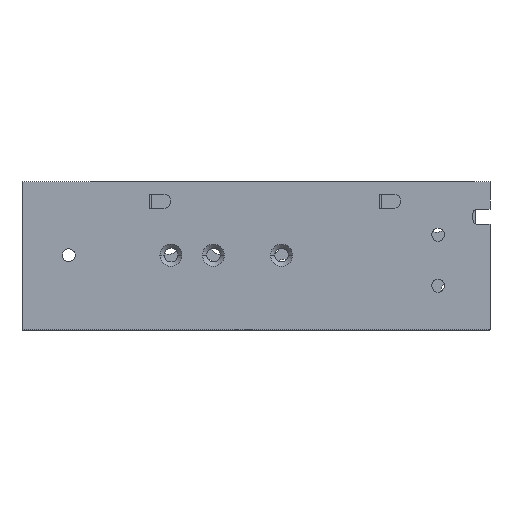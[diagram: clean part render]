
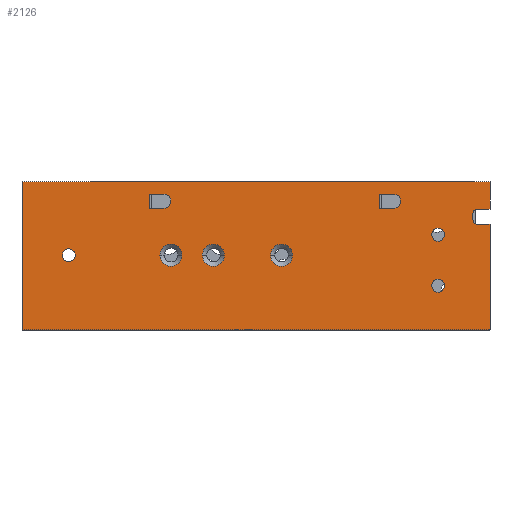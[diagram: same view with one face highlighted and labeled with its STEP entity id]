
A CAD part, front view. The second image highlights one B-rep face of the part: STEP entity #2126.
In plain terms, the highlighted planar face has unit normal (0, -1, 0).
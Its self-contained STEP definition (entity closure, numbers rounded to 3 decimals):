
#423=CARTESIAN_POINT('',(-44.,-38.35,17.7));
#424=DIRECTION('',(0.,-1.,0.));
#425=DIRECTION('',(0.,0.,1.));
#426=AXIS2_PLACEMENT_3D('',#423,#424,#425);
#428=CARTESIAN_POINT('',(-44.,-38.35,17.7));
#429=DIRECTION('',(0.,-1.,0.));
#430=DIRECTION('',(0.,0.,-1.));
#431=AXIS2_PLACEMENT_3D('',#428,#429,#430);
#433=CARTESIAN_POINT('',(42.8,-38.35,22.5));
#434=DIRECTION('',(0.,-1.,0.));
#435=DIRECTION('',(0.,0.,1.));
#436=AXIS2_PLACEMENT_3D('',#433,#434,#435);
#438=CARTESIAN_POINT('',(42.8,-38.35,22.5));
#439=DIRECTION('',(0.,-1.,0.));
#440=DIRECTION('',(0.,0.,-1.));
#441=AXIS2_PLACEMENT_3D('',#438,#439,#440);
#443=CARTESIAN_POINT('',(42.8,-38.35,10.5));
#444=DIRECTION('',(0.,-1.,0.));
#445=DIRECTION('',(0.,0.,1.));
#446=AXIS2_PLACEMENT_3D('',#443,#444,#445);
#448=CARTESIAN_POINT('',(42.8,-38.35,10.5));
#449=DIRECTION('',(0.,-1.,0.));
#450=DIRECTION('',(0.,0.,-1.));
#451=AXIS2_PLACEMENT_3D('',#448,#449,#450);
#453=CARTESIAN_POINT('',(-20.,-38.35,17.7));
#454=DIRECTION('',(0.,1.,0.));
#455=DIRECTION('',(-1.,0.,0.));
#456=AXIS2_PLACEMENT_3D('',#453,#454,#455);
#458=CARTESIAN_POINT('',(-20.,-38.35,17.7));
#459=DIRECTION('',(0.,1.,0.));
#460=DIRECTION('',(1.,0.,0.));
#461=AXIS2_PLACEMENT_3D('',#458,#459,#460);
#463=CARTESIAN_POINT('',(-10.,-38.35,17.7));
#464=DIRECTION('',(0.,1.,0.));
#465=DIRECTION('',(-1.,0.,0.));
#466=AXIS2_PLACEMENT_3D('',#463,#464,#465);
#468=CARTESIAN_POINT('',(-10.,-38.35,17.7));
#469=DIRECTION('',(0.,1.,0.));
#470=DIRECTION('',(1.,0.,0.));
#471=AXIS2_PLACEMENT_3D('',#468,#469,#470);
#473=CARTESIAN_POINT('',(6.,-38.35,17.7));
#474=DIRECTION('',(0.,1.,0.));
#475=DIRECTION('',(-1.,0.,0.));
#476=AXIS2_PLACEMENT_3D('',#473,#474,#475);
#478=CARTESIAN_POINT('',(6.,-38.35,17.7));
#479=DIRECTION('',(0.,1.,0.));
#480=DIRECTION('',(1.,0.,0.));
#481=AXIS2_PLACEMENT_3D('',#478,#479,#480);
#483=DIRECTION('',(1.,0.,0.));
#484=VECTOR('',#483,3.35);
#485=CARTESIAN_POINT('',(29.,-38.35,28.7));
#486=LINE('',#485,#484);
#487=CARTESIAN_POINT('',(32.35,-38.35,30.35));
#488=DIRECTION('',(0.,-1.,0.));
#489=DIRECTION('',(0.,0.,-1.));
#490=AXIS2_PLACEMENT_3D('',#487,#488,#489);
#492=DIRECTION('',(-1.,0.,0.));
#493=VECTOR('',#492,3.35);
#494=CARTESIAN_POINT('',(32.35,-38.35,32.));
#495=LINE('',#494,#493);
#496=DIRECTION('',(0.,0.,-1.));
#497=VECTOR('',#496,3.3);
#498=CARTESIAN_POINT('',(29.,-38.35,32.));
#499=LINE('',#498,#497);
#500=DIRECTION('',(1.,0.,0.));
#501=VECTOR('',#500,3.35);
#502=CARTESIAN_POINT('',(-25.,-38.35,28.7));
#503=LINE('',#502,#501);
#504=CARTESIAN_POINT('',(-21.65,-38.35,30.35));
#505=DIRECTION('',(0.,-1.,0.));
#506=DIRECTION('',(0.,0.,-1.));
#507=AXIS2_PLACEMENT_3D('',#504,#505,#506);
#509=DIRECTION('',(-1.,0.,0.));
#510=VECTOR('',#509,3.35);
#511=CARTESIAN_POINT('',(-21.65,-38.35,32.));
#512=LINE('',#511,#510);
#513=DIRECTION('',(0.,0.,-1.));
#514=VECTOR('',#513,3.3);
#515=CARTESIAN_POINT('',(-25.,-38.35,32.));
#516=LINE('',#515,#514);
#517=DIRECTION('',(-1.,0.,0.));
#518=VECTOR('',#517,110.);
#519=CARTESIAN_POINT('',(55.,-38.35,0.2));
#520=LINE('',#519,#518);
#521=DIRECTION('',(0.,0.,1.));
#522=VECTOR('',#521,34.8);
#523=CARTESIAN_POINT('',(-55.,-38.35,0.2));
#524=LINE('',#523,#522);
#525=DIRECTION('',(-1.,0.,0.));
#526=VECTOR('',#525,3.);
#527=CARTESIAN_POINT('',(55.,-38.35,28.5));
#528=LINE('',#527,#526);
#529=DIRECTION('',(0.,0.,-1.));
#530=VECTOR('',#529,1.5);
#531=CARTESIAN_POINT('',(51.,-38.35,27.5));
#532=LINE('',#531,#530);
#533=DIRECTION('',(-1.,0.,0.));
#534=VECTOR('',#533,3.);
#535=CARTESIAN_POINT('',(55.,-38.35,25.));
#536=LINE('',#535,#534);
#846=DIRECTION('',(0.,0.,1.));
#847=VECTOR('',#846,6.5);
#848=CARTESIAN_POINT('',(55.,-38.35,28.5));
#849=LINE('',#848,#847);
#870=DIRECTION('',(0.,0.,1.));
#871=VECTOR('',#870,24.8);
#872=CARTESIAN_POINT('',(55.,-38.35,0.2));
#873=LINE('',#872,#871);
#894=CARTESIAN_POINT('',(52.,-38.35,27.5));
#895=DIRECTION('',(0.,1.,0.));
#896=DIRECTION('',(-1.,0.,0.));
#897=AXIS2_PLACEMENT_3D('',#894,#895,#896);
#912=CARTESIAN_POINT('',(52.,-38.35,26.));
#913=DIRECTION('',(0.,1.,0.));
#914=DIRECTION('',(0.,0.,-1.));
#915=AXIS2_PLACEMENT_3D('',#912,#913,#914);
#934=DIRECTION('',(1.,0.,0.));
#935=VECTOR('',#934,110.);
#936=CARTESIAN_POINT('',(-55.,-38.35,35.));
#937=LINE('',#936,#935);
#1170=CARTESIAN_POINT('',(-55.,-38.35,35.));
#1171=CARTESIAN_POINT('',(55.,-38.35,35.));
#1172=VERTEX_POINT('',#1170);
#1173=VERTEX_POINT('',#1171);
#1182=CARTESIAN_POINT('',(-44.,-38.35,19.2));
#1183=CARTESIAN_POINT('',(-44.,-38.35,16.2));
#1184=VERTEX_POINT('',#1182);
#1185=VERTEX_POINT('',#1183);
#1186=CARTESIAN_POINT('',(42.8,-38.35,24.));
#1187=CARTESIAN_POINT('',(42.8,-38.35,21.));
#1188=VERTEX_POINT('',#1186);
#1189=VERTEX_POINT('',#1187);
#1190=CARTESIAN_POINT('',(42.8,-38.35,12.));
#1191=CARTESIAN_POINT('',(42.8,-38.35,9.));
#1192=VERTEX_POINT('',#1190);
#1193=VERTEX_POINT('',#1191);
#1302=CARTESIAN_POINT('',(-22.6,-38.35,17.7));
#1303=CARTESIAN_POINT('',(-17.4,-38.35,17.7));
#1304=VERTEX_POINT('',#1302);
#1305=VERTEX_POINT('',#1303);
#1310=CARTESIAN_POINT('',(-12.6,-38.35,17.7));
#1311=CARTESIAN_POINT('',(-7.4,-38.35,17.7));
#1312=VERTEX_POINT('',#1310);
#1313=VERTEX_POINT('',#1311);
#1318=CARTESIAN_POINT('',(3.4,-38.35,17.7));
#1319=CARTESIAN_POINT('',(8.6,-38.35,17.7));
#1320=VERTEX_POINT('',#1318);
#1321=VERTEX_POINT('',#1319);
#1326=CARTESIAN_POINT('',(29.,-38.35,28.7));
#1327=CARTESIAN_POINT('',(32.35,-38.35,28.7));
#1328=VERTEX_POINT('',#1326);
#1329=VERTEX_POINT('',#1327);
#1330=CARTESIAN_POINT('',(32.35,-38.35,32.));
#1331=CARTESIAN_POINT('',(29.,-38.35,32.));
#1332=VERTEX_POINT('',#1330);
#1333=VERTEX_POINT('',#1331);
#1334=CARTESIAN_POINT('',(-25.,-38.35,28.7));
#1335=CARTESIAN_POINT('',(-21.65,-38.35,28.7));
#1336=VERTEX_POINT('',#1334);
#1337=VERTEX_POINT('',#1335);
#1338=CARTESIAN_POINT('',(-21.65,-38.35,32.));
#1339=CARTESIAN_POINT('',(-25.,-38.35,32.));
#1340=VERTEX_POINT('',#1338);
#1341=VERTEX_POINT('',#1339);
#1342=CARTESIAN_POINT('',(55.,-38.35,28.5));
#1344=VERTEX_POINT('',#1342);
#1346=CARTESIAN_POINT('',(55.,-38.35,25.));
#1348=VERTEX_POINT('',#1346);
#1350=CARTESIAN_POINT('',(51.,-38.35,27.5));
#1352=VERTEX_POINT('',#1350);
#1354=CARTESIAN_POINT('',(52.,-38.35,28.5));
#1356=VERTEX_POINT('',#1354);
#1358=CARTESIAN_POINT('',(52.,-38.35,25.));
#1360=VERTEX_POINT('',#1358);
#1362=CARTESIAN_POINT('',(51.,-38.35,26.));
#1364=VERTEX_POINT('',#1362);
#1384=CARTESIAN_POINT('',(55.,-38.35,0.2));
#1385=VERTEX_POINT('',#1384);
#1387=CARTESIAN_POINT('',(-55.,-38.35,0.2));
#1389=VERTEX_POINT('',#1387);
#2045=CARTESIAN_POINT('',(-55.,-38.35,0.));
#2046=DIRECTION('',(0.,-1.,0.));
#2047=DIRECTION('',(1.,0.,0.));
#2048=AXIS2_PLACEMENT_3D('',#2045,#2046,#2047);
#2049=PLANE('',#2048);
#2051=ORIENTED_EDGE('',*,*,#2050,.T.);
#2052=ORIENTED_EDGE('',*,*,#1932,.T.);
#2054=ORIENTED_EDGE('',*,*,#2053,.T.);
#2056=ORIENTED_EDGE('',*,*,#2055,.F.);
#2058=ORIENTED_EDGE('',*,*,#2057,.T.);
#2060=ORIENTED_EDGE('',*,*,#2059,.F.);
#2062=ORIENTED_EDGE('',*,*,#2061,.T.);
#2064=ORIENTED_EDGE('',*,*,#2063,.F.);
#2066=ORIENTED_EDGE('',*,*,#2065,.F.);
#2068=ORIENTED_EDGE('',*,*,#2067,.F.);
#2069=EDGE_LOOP('',(#2051,#2052,#2054,#2056,#2058,#2060,#2062,#2064,#2066,
#2068));
#2070=FACE_OUTER_BOUND('',#2069,.F.);
#2072=ORIENTED_EDGE('',*,*,#2071,.T.);
#2074=ORIENTED_EDGE('',*,*,#2073,.T.);
#2075=EDGE_LOOP('',(#2072,#2074));
#2076=FACE_BOUND('',#2075,.F.);
#2078=ORIENTED_EDGE('',*,*,#2077,.T.);
#2080=ORIENTED_EDGE('',*,*,#2079,.T.);
#2081=EDGE_LOOP('',(#2078,#2080));
#2082=FACE_BOUND('',#2081,.F.);
#2084=ORIENTED_EDGE('',*,*,#2083,.F.);
#2086=ORIENTED_EDGE('',*,*,#2085,.F.);
#2087=EDGE_LOOP('',(#2084,#2086));
#2088=FACE_BOUND('',#2087,.F.);
#2090=ORIENTED_EDGE('',*,*,#2089,.F.);
#2092=ORIENTED_EDGE('',*,*,#2091,.F.);
#2093=EDGE_LOOP('',(#2090,#2092));
#2094=FACE_BOUND('',#2093,.F.);
#2096=ORIENTED_EDGE('',*,*,#2095,.F.);
#2098=ORIENTED_EDGE('',*,*,#2097,.F.);
#2099=EDGE_LOOP('',(#2096,#2098));
#2100=FACE_BOUND('',#2099,.F.);
#2102=ORIENTED_EDGE('',*,*,#2101,.T.);
#2104=ORIENTED_EDGE('',*,*,#2103,.T.);
#2106=ORIENTED_EDGE('',*,*,#2105,.T.);
#2108=ORIENTED_EDGE('',*,*,#2107,.T.);
#2109=EDGE_LOOP('',(#2102,#2104,#2106,#2108));
#2110=FACE_BOUND('',#2109,.F.);
#2112=ORIENTED_EDGE('',*,*,#2111,.T.);
#2114=ORIENTED_EDGE('',*,*,#2113,.T.);
#2116=ORIENTED_EDGE('',*,*,#2115,.T.);
#2118=ORIENTED_EDGE('',*,*,#2117,.T.);
#2119=EDGE_LOOP('',(#2112,#2114,#2116,#2118));
#2120=FACE_BOUND('',#2119,.F.);
#2121=ORIENTED_EDGE('',*,*,#2035,.T.);
#2123=ORIENTED_EDGE('',*,*,#2122,.T.);
#2124=EDGE_LOOP('',(#2121,#2123));
#2125=FACE_BOUND('',#2124,.F.);
#427=CIRCLE('',#426,1.5);
#432=CIRCLE('',#431,1.5);
#437=CIRCLE('',#436,1.5);
#442=CIRCLE('',#441,1.5);
#447=CIRCLE('',#446,1.5);
#452=CIRCLE('',#451,1.5);
#457=CIRCLE('',#456,2.6);
#462=CIRCLE('',#461,2.6);
#467=CIRCLE('',#466,2.6);
#472=CIRCLE('',#471,2.6);
#477=CIRCLE('',#476,2.6);
#482=CIRCLE('',#481,2.6);
#491=CIRCLE('',#490,1.65);
#508=CIRCLE('',#507,1.65);
#898=CIRCLE('',#897,1.);
#916=CIRCLE('',#915,1.);
#1932=EDGE_CURVE('',#1389,#1172,#524,.T.);
#2035=EDGE_CURVE('',#1184,#1185,#427,.T.);
#2050=EDGE_CURVE('',#1385,#1389,#520,.T.);
#2053=EDGE_CURVE('',#1172,#1173,#937,.T.);
#2055=EDGE_CURVE('',#1344,#1173,#849,.T.);
#2057=EDGE_CURVE('',#1344,#1356,#528,.T.);
#2059=EDGE_CURVE('',#1352,#1356,#898,.T.);
#2061=EDGE_CURVE('',#1352,#1364,#532,.T.);
#2063=EDGE_CURVE('',#1360,#1364,#916,.T.);
#2065=EDGE_CURVE('',#1348,#1360,#536,.T.);
#2067=EDGE_CURVE('',#1385,#1348,#873,.T.);
#2071=EDGE_CURVE('',#1188,#1189,#437,.T.);
#2073=EDGE_CURVE('',#1189,#1188,#442,.T.);
#2077=EDGE_CURVE('',#1192,#1193,#447,.T.);
#2079=EDGE_CURVE('',#1193,#1192,#452,.T.);
#2083=EDGE_CURVE('',#1304,#1305,#457,.T.);
#2085=EDGE_CURVE('',#1305,#1304,#462,.T.);
#2089=EDGE_CURVE('',#1312,#1313,#467,.T.);
#2091=EDGE_CURVE('',#1313,#1312,#472,.T.);
#2095=EDGE_CURVE('',#1320,#1321,#477,.T.);
#2097=EDGE_CURVE('',#1321,#1320,#482,.T.);
#2101=EDGE_CURVE('',#1328,#1329,#486,.T.);
#2103=EDGE_CURVE('',#1329,#1332,#491,.T.);
#2105=EDGE_CURVE('',#1332,#1333,#495,.T.);
#2107=EDGE_CURVE('',#1333,#1328,#499,.T.);
#2111=EDGE_CURVE('',#1336,#1337,#503,.T.);
#2113=EDGE_CURVE('',#1337,#1340,#508,.T.);
#2115=EDGE_CURVE('',#1340,#1341,#512,.T.);
#2117=EDGE_CURVE('',#1341,#1336,#516,.T.);
#2122=EDGE_CURVE('',#1185,#1184,#432,.T.);
#2126=ADVANCED_FACE('',(#2070,#2076,#2082,#2088,#2094,#2100,#2110,#2120,#2125),
#2049,.T.);
